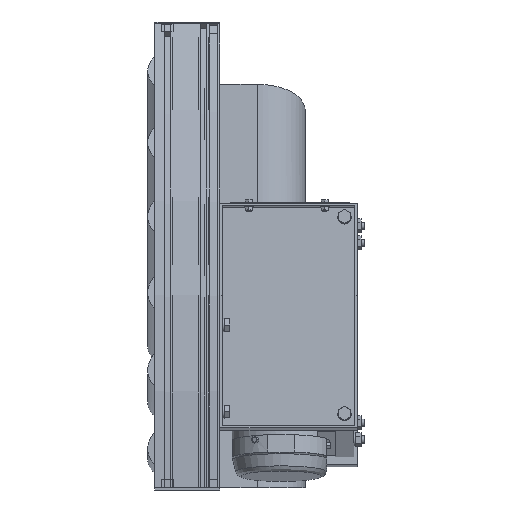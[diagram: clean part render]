
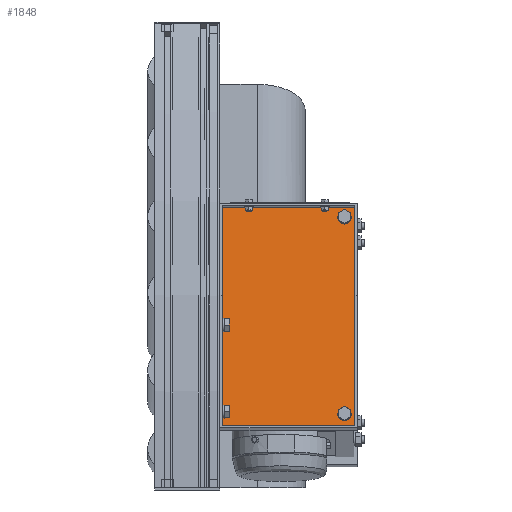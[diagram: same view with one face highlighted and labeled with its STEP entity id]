
A CAD part, left-side view. The second image highlights one B-rep face of the part: STEP entity #1848.
In plain terms, the highlighted planar face has unit normal (-0.991, 0, 0.131).
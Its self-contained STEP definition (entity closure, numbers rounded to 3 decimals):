
#1848=ADVANCED_FACE('',(#11988,#11989,#11990),#11987,.T.);
#11987=PLANE('',#19066);
#11988=FACE_OUTER_BOUND('',#19067,.T.);
#11989=FACE_BOUND('',#19068,.T.);
#11990=FACE_BOUND('',#19069,.T.);
#19063=CARTESIAN_POINT('',(-179.934,-296.8,72.952));
#19064=DIRECTION('',(-0.991,0.,0.131));
#19065=DIRECTION('',(0.131,0.,0.991));
#19066=AXIS2_PLACEMENT_3D('',#19063,#19064,#19065);
#19067=EDGE_LOOP('',(#24722,#24723,#24724,#24725));
#19068=EDGE_LOOP('',(#24726,#24727));
#19069=EDGE_LOOP('',(#24728,#24729));
#24722=ORIENTED_EDGE('',*,*,#27838,.F.);
#24723=ORIENTED_EDGE('',*,*,#27839,.F.);
#24724=ORIENTED_EDGE('',*,*,#27840,.F.);
#24725=ORIENTED_EDGE('',*,*,#27841,.F.);
#24726=ORIENTED_EDGE('',*,*,#27842,.T.);
#24727=ORIENTED_EDGE('',*,*,#27843,.T.);
#24728=ORIENTED_EDGE('',*,*,#27844,.T.);
#24729=ORIENTED_EDGE('',*,*,#27845,.T.);
#27838=EDGE_CURVE('',#44092,#44093,#44094,.T.);
#27839=EDGE_CURVE('',#44100,#44092,#44101,.T.);
#27840=EDGE_CURVE('',#44107,#44100,#44108,.T.);
#27841=EDGE_CURVE('',#44093,#44107,#44114,.T.);
#27842=EDGE_CURVE('',#44120,#44121,#44122,.T.);
#27843=EDGE_CURVE('',#44121,#44120,#44128,.T.);
#27844=EDGE_CURVE('',#44134,#44135,#44136,.T.);
#27845=EDGE_CURVE('',#44135,#44134,#44142,.T.);
#44092=VERTEX_POINT('',#56265);
#44093=VERTEX_POINT('',#56266);
#44094=LINE('',#56267,#56268);
#44100=VERTEX_POINT('',#56270);
#44101=LINE('',#56271,#56272);
#44107=VERTEX_POINT('',#56274);
#44108=LINE('',#56275,#56276);
#44114=LINE('',#56278,#56279);
#44120=VERTEX_POINT('',#56281);
#44121=VERTEX_POINT('',#56282);
#44122=CIRCLE('',#56286,5.5);
#44128=CIRCLE('',#56290,5.5);
#44134=VERTEX_POINT('',#56291);
#44135=VERTEX_POINT('',#56292);
#44136=CIRCLE('',#56296,5.5);
#44142=CIRCLE('',#56300,5.5);
#56265=CARTESIAN_POINT('',(-138.349,-286.8,388.827));
#56266=CARTESIAN_POINT('',(-178.629,-286.8,82.867));
#56267=CARTESIAN_POINT('',(-138.349,-286.8,388.827));
#56268=VECTOR('',#56269,308.6);
#56269=DIRECTION('',(-0.131,0.,-0.991));
#56270=CARTESIAN_POINT('',(-138.349,-103.2,388.827));
#56271=CARTESIAN_POINT('',(-138.349,-103.2,388.827));
#56272=VECTOR('',#56273,183.6);
#56273=DIRECTION('',(0.,-1.,0.));
#56274=CARTESIAN_POINT('',(-178.629,-103.2,82.867));
#56275=CARTESIAN_POINT('',(-178.629,-103.2,82.867));
#56276=VECTOR('',#56277,308.6);
#56277=DIRECTION('',(0.131,0.,0.991));
#56278=CARTESIAN_POINT('',(-178.629,-286.8,82.867));
#56279=VECTOR('',#56280,183.6);
#56280=DIRECTION('',(0.,1.,0.));
#56281=CARTESIAN_POINT('',(-176.828,-272.5,96.549));
#56282=CARTESIAN_POINT('',(-175.392,-272.5,107.455));
#56283=CARTESIAN_POINT('',(-176.11,-272.5,102.002));
#56284=DIRECTION('',(0.991,0.,-0.131));
#56285=DIRECTION('',(-0.131,0.,-0.991));
#56286=AXIS2_PLACEMENT_3D('',#56283,#56284,#56285);
#56287=CARTESIAN_POINT('',(-176.11,-272.5,102.002));
#56288=DIRECTION('',(0.991,0.,-0.131));
#56289=DIRECTION('',(-0.131,0.,-0.991));
#56290=AXIS2_PLACEMENT_3D('',#56287,#56288,#56289);
#56291=CARTESIAN_POINT('',(-140.933,-272.5,369.196));
#56292=CARTESIAN_POINT('',(-139.497,-272.5,380.102));
#56293=CARTESIAN_POINT('',(-140.215,-272.5,374.649));
#56294=DIRECTION('',(0.991,0.,-0.131));
#56295=DIRECTION('',(-0.131,0.,-0.991));
#56296=AXIS2_PLACEMENT_3D('',#56293,#56294,#56295);
#56297=CARTESIAN_POINT('',(-140.215,-272.5,374.649));
#56298=DIRECTION('',(0.991,0.,-0.131));
#56299=DIRECTION('',(-0.131,0.,-0.991));
#56300=AXIS2_PLACEMENT_3D('',#56297,#56298,#56299);
